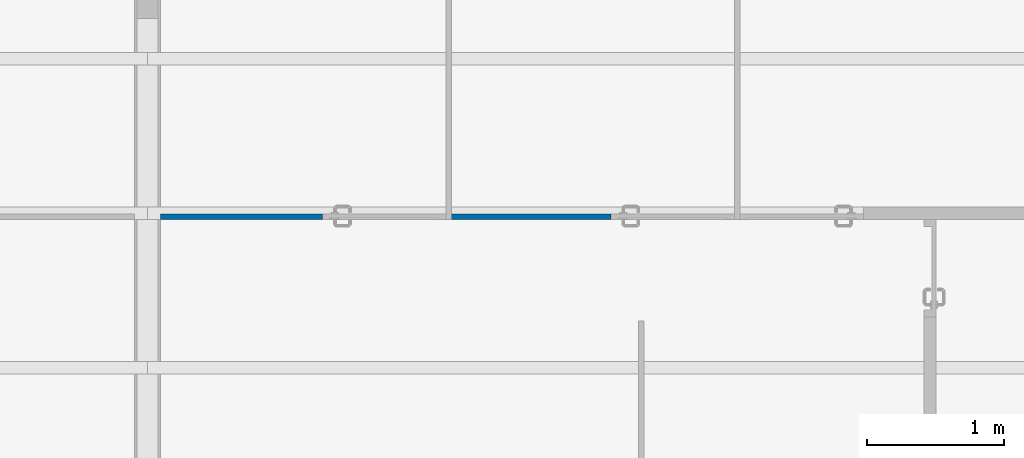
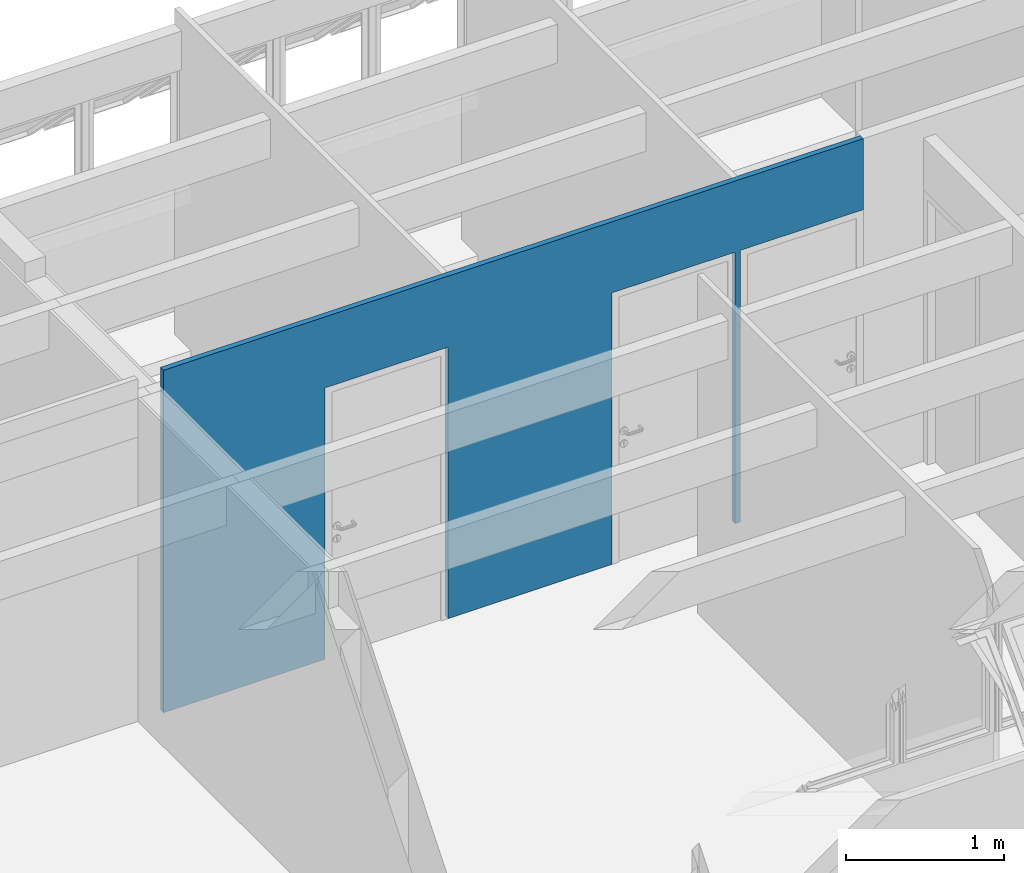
# One storey, part 37 of 40: 1 wall, 3 openings.
"""IFC4 building model written with IfcOpenShell, lengths in millimetres."""

from ifc_helpers import new_model, entity, si_unit, converted_unit, derived_unit, direction, frame, origin_with_axes, origin_2d_with_axis, place, context, subcontext, project, spatial, line, indexed_curve, rectangle, outline, extrude, material, layer, layer_set, layer_usage, type_object, element, save


model = new_model("IFC4")

# Units and contexts
model_context = context("Model", 3, precision=0.01, world=origin_with_axes(), true_north=direction((0.0, 1.0)))
body_context = subcontext(model_context, "Body", "Model", "MODEL_VIEW")
ifc_project = project(units=[si_unit("LENGTHUNIT", "METRE", prefix="MILLI"), si_unit("AREAUNIT", "SQUARE_METRE"), si_unit("VOLUMEUNIT", "CUBIC_METRE"), converted_unit("PLANEANGLEUNIT", "DEGREE", entity("IfcPlaneAngleMeasure", 0.0174532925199), si_unit("PLANEANGLEUNIT", "RADIAN"), dimensions=[0, 0, 0, 0, 0, 0, 0]), converted_unit("TIMEUNIT", "Year", entity("IfcTimeMeasure", 31556926.0), si_unit("TIMEUNIT", "SECOND"), dimensions=[0, 0, 1, 0, 0, 0, 0]), si_unit("MASSUNIT", "GRAM", prefix="KILO"), si_unit("THERMODYNAMICTEMPERATUREUNIT", "DEGREE_CELSIUS"), si_unit("LUMINOUSINTENSITYUNIT", "LUMEN"), si_unit("ENERGYUNIT", "JOULE", prefix="MEGA"), derived_unit("THERMALCONDUCTANCEUNIT", [(si_unit("POWERUNIT", "WATT"), 1), (si_unit("LENGTHUNIT", "METRE"), -1), (si_unit("THERMODYNAMICTEMPERATUREUNIT", "KELVIN"), -1)]), derived_unit("SPECIFICHEATCAPACITYUNIT", [(si_unit("ENERGYUNIT", "JOULE"), 1), (si_unit("MASSUNIT", "GRAM", prefix="KILO"), -1), (si_unit("THERMODYNAMICTEMPERATUREUNIT", "KELVIN"), -1)]), derived_unit("MASSDENSITYUNIT", [(si_unit("MASSUNIT", "GRAM", prefix="KILO"), 1), (si_unit("VOLUMEUNIT", "CUBIC_METRE"), -1)])], contexts=[model_context])

# Site, building, storey
site_placement = place(None, origin_with_axes())
site = spatial("IfcSite", under=ifc_project, at=site_placement, Name="Local", CompositionType="ELEMENT")
building_placement = place(site_placement, origin_with_axes())
building = spatial("IfcBuilding", under=site, at=building_placement, Name="Construção", CompositionType="ELEMENT")
storey_placement = place(building_placement, origin_with_axes())
storey = spatial("IfcBuildingStorey", under=building, at=storey_placement, Name="Primeiro Pavimento", CompositionType="ELEMENT", Elevation=0.0)

# Wall, openings
ifc_material = material(Name="GENÉRICO - VEDAÇÃO EXTERNA")
ifc_layer = layer(ifc_material, 40.0, ventilated="UNKNOWN", Name="GENÉRICO - VEDAÇÃO EXTERNA")
ifc_layer_set = layer_set([ifc_layer], Name="GENÉRICO - VEDAÇÃO EXTERNA 40")
ifc_layer_usage = layer_usage(ifc_layer_set, "AXIS2", "NEGATIVE", 0.0)
wall_type = type_object("IfcWallType", Name="GENÉRICO - VEDAÇÃO EXTERNA 40", PredefinedType="NOTDEFINED")
wall_placement = place(storey_placement, frame((12600.0, 22394.7804333, 0.0), z_axis=(0.0, 0.0, 1.0), x_axis=(-0.99999999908, 4.28841203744e-05, 0.0)))
wall = element("IfcWall", 1, at=wall_placement, inside=storey, type_object=wall_type, material=ifc_layer_usage, Name="APTO4-PAREDE-006", PredefinedType="NOTDEFINED", context=body_context, shape_type="SweptSolid", body=[
    extrude(outline(indexed_curve([(0.00085768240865, -40.0), (5120.00172007, -40.0), (5120.00000471, 0.0), (0.0, 0.0)], segments=[line(1, 2, 3, 4, 1)])), origin_with_axes(), (0.0, 0.0, 1.0), 2650.0),
])
opening_1_placement = place(wall_placement, frame((1390.00000471, 0.0, 0.0), z_axis=(0.0, 0.0, 1.0), x_axis=(1.0, 0.0, 0.0)))
element("IfcOpeningElement", 2, at=opening_1_placement, cuts=wall, Name="APTO4-PORTA-002", context=body_context, shape_type="SweptSolid", body=[
    extrude(rectangle(XDim=900.0, YDim=2100.0, at=origin_2d_with_axis()), frame((0.0, -40.0, 1050.0), z_axis=(0.0, 1.0, 0.0), x_axis=(-1.0, 0.0, 0.0)), (0.0, 0.0, 1.0), 120.0),
])
opening_2_placement = place(wall_placement, frame((450.000004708, 0.0, 0.0), z_axis=(0.0, 0.0, 1.0), x_axis=(1.0, 0.0, 0.0)))
element("IfcOpeningElement", 3, at=opening_2_placement, cuts=wall, Name="APTO4-PORTA-001", context=body_context, shape_type="SweptSolid", body=[
    extrude(rectangle(XDim=900.0, YDim=2100.0, at=origin_2d_with_axis()), frame((0.0, -40.0, 1050.0), z_axis=(0.0, -1.0, 0.0), x_axis=(1.0, 0.0, 0.0)), (0.0, 0.0, -1.0), 120.0),
])
opening_3_placement = place(wall_placement, frame((3490.00000471, 0.0, 0.0), z_axis=(0.0, 0.0, 1.0), x_axis=(1.0, 0.0, 0.0)))
element("IfcOpeningElement", 4, at=opening_3_placement, cuts=wall, Name="APTO4-PORTA-000", context=body_context, shape_type="SweptSolid", body=[
    extrude(rectangle(XDim=900.0, YDim=2100.0, at=origin_2d_with_axis()), frame((0.0, -40.0, 1050.0), z_axis=(0.0, 1.0, 0.0), x_axis=(-1.0, 0.0, 0.0)), (0.0, 0.0, 1.0), 120.0),
])

save(model, "model.ifc")
